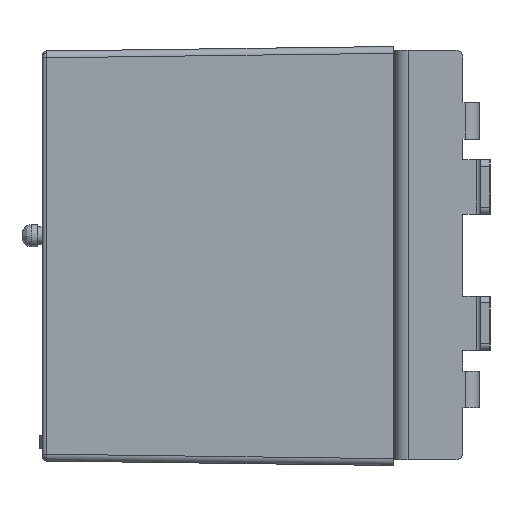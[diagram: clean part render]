
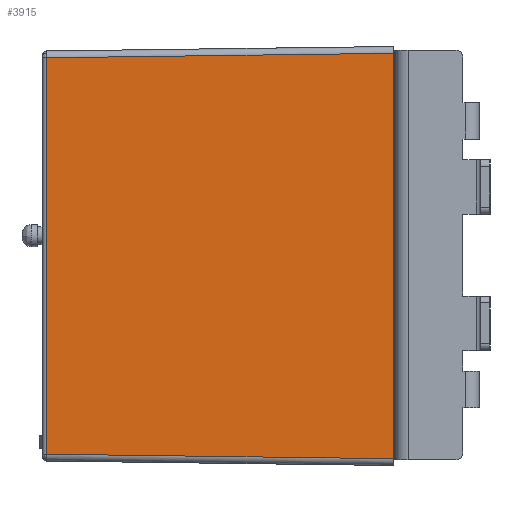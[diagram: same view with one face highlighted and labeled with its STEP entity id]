
A CAD part, left-side view. The second image highlights one B-rep face of the part: STEP entity #3915.
In plain terms, the highlighted planar face has unit normal (-1, 0.013, 0).
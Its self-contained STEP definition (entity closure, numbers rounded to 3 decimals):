
#2059=PLANE('',#42141);
#3915=ADVANCED_FACE('',(#6468),#2059,.T.);
#6468=FACE_OUTER_BOUND('',#8585,.T.);
#8585=EDGE_LOOP('',(#22175,#22176,#22177,#22178));
#11601=LINE('',#63073,#15829);
#11610=LINE('',#63107,#15838);
#11626=LINE('',#63171,#15854);
#11627=LINE('',#63173,#15855);
#15829=VECTOR('',#46702,1.);
#15838=VECTOR('',#46713,1.);
#15854=VECTOR('',#46749,1.);
#15855=VECTOR('',#46750,1.);
#22175=ORIENTED_EDGE('',*,*,#36439,.T.);
#22176=ORIENTED_EDGE('',*,*,#36440,.T.);
#22177=ORIENTED_EDGE('',*,*,#36402,.T.);
#22178=ORIENTED_EDGE('',*,*,#36414,.F.);
#31886=VERTEX_POINT('',#63072);
#31887=VERTEX_POINT('',#63074);
#31898=VERTEX_POINT('',#63106);
#31917=VERTEX_POINT('',#63172);
#36402=EDGE_CURVE('',#31887,#31886,#11601,.T.);
#36414=EDGE_CURVE('',#31898,#31886,#11610,.T.);
#36439=EDGE_CURVE('',#31898,#31917,#11626,.T.);
#36440=EDGE_CURVE('',#31917,#31887,#11627,.T.);
#42141=AXIS2_PLACEMENT_3D('',#63174,#46751,#46752);
#46702=DIRECTION('',(0.,0.,1.));
#46713=DIRECTION('',(-0.013,-1.,0.013));
#46749=DIRECTION('',(0.,0.,-1.));
#46750=DIRECTION('',(-0.013,-1.,-0.013));
#46751=DIRECTION('',(-1.,0.013,0.));
#46752=DIRECTION('',(-0.013,-1.,0.));
#63072=CARTESIAN_POINT('',(-85.606,-103.035,208.687));
#63073=CARTESIAN_POINT('',(-85.606,-103.035,164.137));
#63074=CARTESIAN_POINT('',(-85.606,-103.035,119.587));
#63106=CARTESIAN_POINT('',(-84.618,-26.822,207.7));
#63107=CARTESIAN_POINT('',(-85.588,-101.694,208.67));
#63171=CARTESIAN_POINT('',(-84.618,-26.822,164.137));
#63172=CARTESIAN_POINT('',(-84.618,-26.822,120.574));
#63173=CARTESIAN_POINT('',(-84.618,-26.822,120.574));
#63174=CARTESIAN_POINT('',(-85.596,-102.27,164.137));
